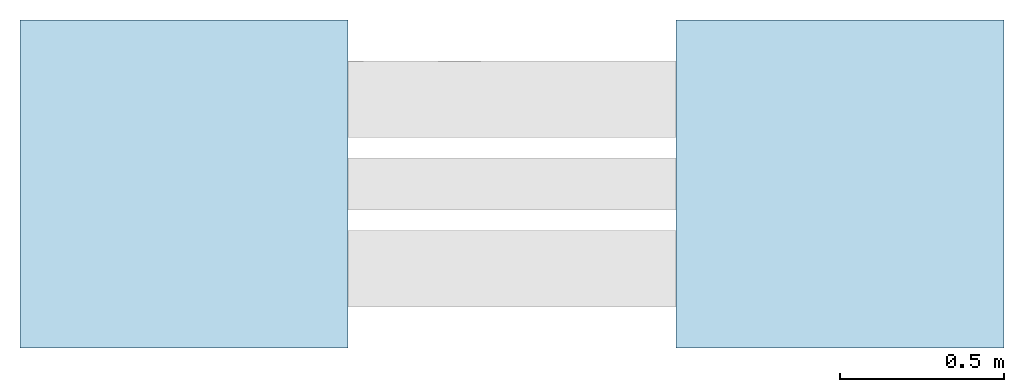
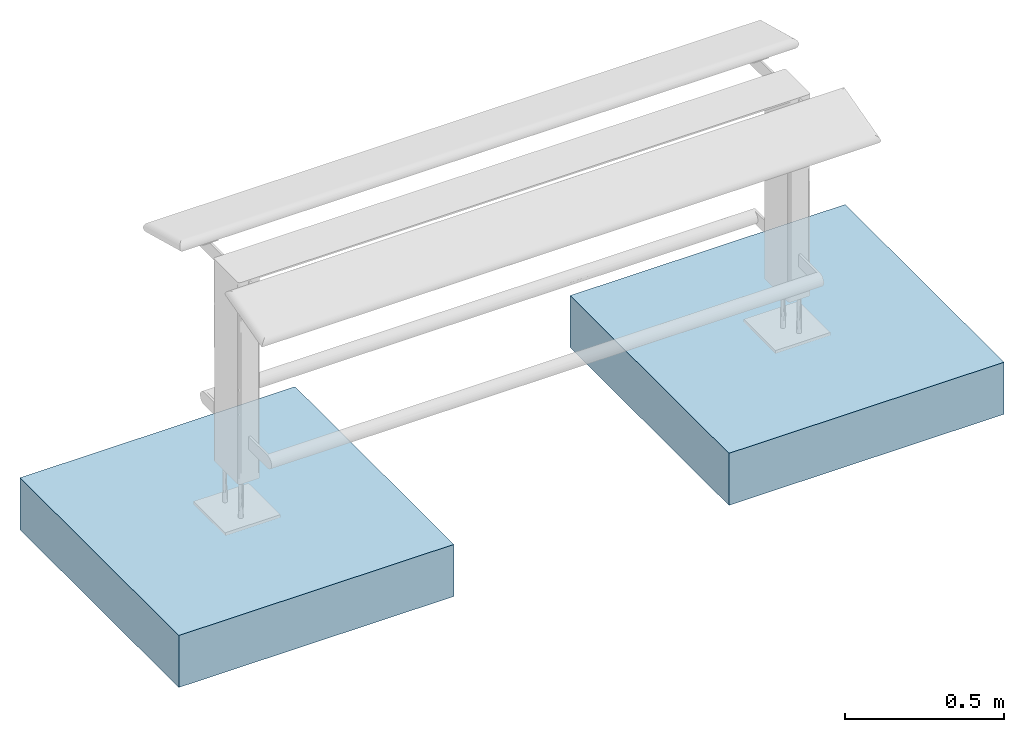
# One storey, incomplete: 2 slabs.
"""IFC4 building model written with IfcOpenShell, lengths in metres."""

from ifc_helpers import new_model, entity, si_unit, converted_unit, direction, frame, frame_2d, origin, origin_2d_with_axis, place, context, subcontext, project, spatial, rectangle, extrude, material, type_object, element, save


model = new_model("IFC4")

# Units and contexts
model_context = context("Model", 3, precision=1e-05, world=origin(), true_north=direction((6.123031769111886e-17, 1.0)))
body_context = subcontext(model_context, "Body", "Model", "MODEL_VIEW")
ifc_project = project(units=[si_unit("LENGTHUNIT", "METRE"), converted_unit("PLANEANGLEUNIT", "DEGREE", entity("IfcPlaneAngleMeasure", 0.017453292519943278), si_unit("PLANEANGLEUNIT", "RADIAN"), dimensions=[0, 0, 0, 0, 0, 0, 0]), si_unit("AREAUNIT", "SQUARE_METRE")], contexts=[model_context])

# Site, building, storey
site_placement = place(None, origin())
site = spatial("IfcSite", under=ifc_project, at=site_placement, Name="Default", CompositionType="ELEMENT")
building_placement = place(site_placement, origin())
building = spatial("IfcBuilding", under=site, at=building_placement, CompositionType="ELEMENT")
storey_placement = place(building_placement, origin())
storey = spatial("IfcBuildingStorey", under=building, at=storey_placement, Name="Ebene 0", CompositionType="ELEMENT", Elevation=0.0)

# Slabs
ifc_material = material(Name="DB_Fertigbeton", Category="DB_Beton")
slab_type = type_object("IfcSlabType", Name="DB_Calidum_light_Fundament:DB_Calidum_light_Fundament", PredefinedType="BASESLAB", material=ifc_material)
slab_1_placement = place(storey_placement, origin())
element("IfcSlab", 1, at=slab_1_placement, inside=storey, type_object=slab_type, Name="DB_Calidum_light_Fundament:DB_Calidum_light_Fundament", ObjectType="DB_Calidum_light_Fundament:DB_Calidum_light_Fundament", PredefinedType="BASESLAB", context=body_context, shape_type="SweptSolid", body=[
    extrude(rectangle(XDim=0.9999999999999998, YDim=0.9999999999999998, at=frame_2d((2.7755575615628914e-17, -2.7755575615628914e-17), x_axis=(1.0, 0.0))), frame((-1.0, 0.0, -0.3619999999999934), z_axis=(0.0, 0.0, 1.0), x_axis=(0.0, 1.0, 0.0)), (0.0, 0.0, 1.0), 0.2),
])
slab_2_placement = place(storey_placement, origin())
element("IfcSlab", 2, at=slab_2_placement, inside=storey, type_object=slab_type, Name="DB_Calidum_light_Fundament:DB_Calidum_light_Fundament", ObjectType="DB_Calidum_light_Fundament:DB_Calidum_light_Fundament", PredefinedType="BASESLAB", context=body_context, shape_type="SweptSolid", body=[
    extrude(rectangle(XDim=0.9999999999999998, YDim=0.9999999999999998, at=origin_2d_with_axis()), frame((1.0, 0.0, -0.36199999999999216), z_axis=(0.0, 0.0, 1.0), x_axis=(0.0, 1.0, 0.0)), (0.0, 0.0, 1.0), 0.2),
])

save(model, "model.ifc")
